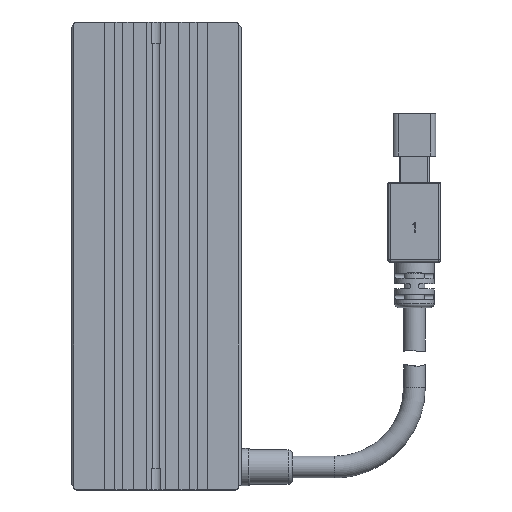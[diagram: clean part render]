
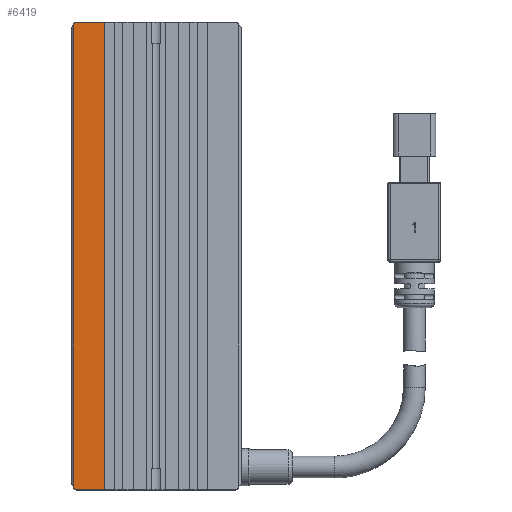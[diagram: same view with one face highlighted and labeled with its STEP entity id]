
A CAD part, top view. The second image highlights one B-rep face of the part: STEP entity #6419.
In plain terms, the highlighted planar face has unit normal (0, 0, 1).
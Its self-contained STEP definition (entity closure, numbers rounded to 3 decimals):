
#445 = DIRECTION ( 'NONE',  ( -0.707, -0.707, 0. ) ) ;
#688 = VERTEX_POINT ( 'NONE', #7769 ) ;
#1148 = LINE ( 'NONE', #16240, #2358 ) ;
#1157 = VECTOR ( 'NONE', #4371, 1000. ) ;
#1352 = FACE_OUTER_BOUND ( 'NONE', #18378, .T. ) ;
#1880 = LINE ( 'NONE', #13882, #16513 ) ;
#2358 = VECTOR ( 'NONE', #10197, 1000. ) ;
#2475 = VERTEX_POINT ( 'NONE', #3393 ) ;
#3393 = CARTESIAN_POINT ( 'NONE',  ( -15., -44., 12.5 ) ) ;
#3728 = LINE ( 'NONE', #15773, #6291 ) ;
#4206 = AXIS2_PLACEMENT_3D ( 'NONE', #14227, #17267, #9694 ) ;
#4371 = DIRECTION ( 'NONE',  ( 1., 0., 0. ) ) ;
#4556 = CARTESIAN_POINT ( 'NONE',  ( -9.7, 44., 12.5 ) ) ;
#4616 = LINE ( 'NONE', #18596, #7685 ) ;
#4989 = EDGE_CURVE ( 'NONE', #2475, #7325, #1880, .T. ) ;
#5160 = LINE ( 'NONE', #5812, #1157 ) ;
#5265 = EDGE_CURVE ( 'NONE', #10791, #5947, #5160, .T. ) ;
#5755 = CARTESIAN_POINT ( 'NONE',  ( -15.5, 43.5, 12.5 ) ) ;
#5812 = CARTESIAN_POINT ( 'NONE',  ( -15.5, 44., 12.5 ) ) ;
#5947 = VERTEX_POINT ( 'NONE', #4556 ) ;
#5980 = ORIENTED_EDGE ( 'NONE', *, *, #10911, .T. ) ;
#6248 = ORIENTED_EDGE ( 'NONE', *, *, #4989, .T. ) ;
#6291 = VECTOR ( 'NONE', #445, 1000. ) ;
#6419 = ADVANCED_FACE ( 'NONE', ( #1352 ), #17137, .F. ) ;
#6939 = EDGE_CURVE ( 'NONE', #688, #2475, #4616, .T. ) ;
#7325 = VERTEX_POINT ( 'NONE', #18734 ) ;
#7551 = EDGE_CURVE ( 'NONE', #5947, #7325, #14037, .T. ) ;
#7685 = VECTOR ( 'NONE', #15545, 1000. ) ;
#7740 = DIRECTION ( 'NONE',  ( 0., -1., 0. ) ) ;
#7769 = CARTESIAN_POINT ( 'NONE',  ( -15.5, -43.5, 12.5 ) ) ;
#7986 = VERTEX_POINT ( 'NONE', #5755 ) ;
#9694 = DIRECTION ( 'NONE',  ( -1., 0., 0. ) ) ;
#10197 = DIRECTION ( 'NONE',  ( 0., -1., 0. ) ) ;
#10791 = VERTEX_POINT ( 'NONE', #17432 ) ;
#10911 = EDGE_CURVE ( 'NONE', #7986, #688, #1148, .T. ) ;
#12803 = CARTESIAN_POINT ( 'NONE',  ( -9.7, 44., 12.5 ) ) ;
#13227 = ORIENTED_EDGE ( 'NONE', *, *, #5265, .F. ) ;
#13882 = CARTESIAN_POINT ( 'NONE',  ( -15.5, -44., 12.5 ) ) ;
#14037 = LINE ( 'NONE', #12803, #14509 ) ;
#14227 = CARTESIAN_POINT ( 'NONE',  ( -15.5, 44., 12.5 ) ) ;
#14509 = VECTOR ( 'NONE', #7740, 1000. ) ;
#15320 = DIRECTION ( 'NONE',  ( 1., 0., 0. ) ) ;
#15545 = DIRECTION ( 'NONE',  ( 0.707, -0.707, 0. ) ) ;
#15593 = EDGE_CURVE ( 'NONE', #10791, #7986, #3728, .T. ) ;
#15773 = CARTESIAN_POINT ( 'NONE',  ( -15., 44., 12.5 ) ) ;
#16240 = CARTESIAN_POINT ( 'NONE',  ( -15.5, 44., 12.5 ) ) ;
#16513 = VECTOR ( 'NONE', #15320, 1000. ) ;
#16795 = ORIENTED_EDGE ( 'NONE', *, *, #7551, .F. ) ;
#16881 = ORIENTED_EDGE ( 'NONE', *, *, #15593, .T. ) ;
#17137 = PLANE ( 'NONE',  #4206 ) ;
#17267 = DIRECTION ( 'NONE',  ( 0., 0., -1. ) ) ;
#17432 = CARTESIAN_POINT ( 'NONE',  ( -15., 44., 12.5 ) ) ;
#17957 = ORIENTED_EDGE ( 'NONE', *, *, #6939, .T. ) ;
#18378 = EDGE_LOOP ( 'NONE', ( #13227, #16881, #5980, #17957, #6248, #16795 ) ) ;
#18596 = CARTESIAN_POINT ( 'NONE',  ( -16., -43., 12.5 ) ) ;
#18734 = CARTESIAN_POINT ( 'NONE',  ( -9.7, -44., 12.5 ) ) ;
